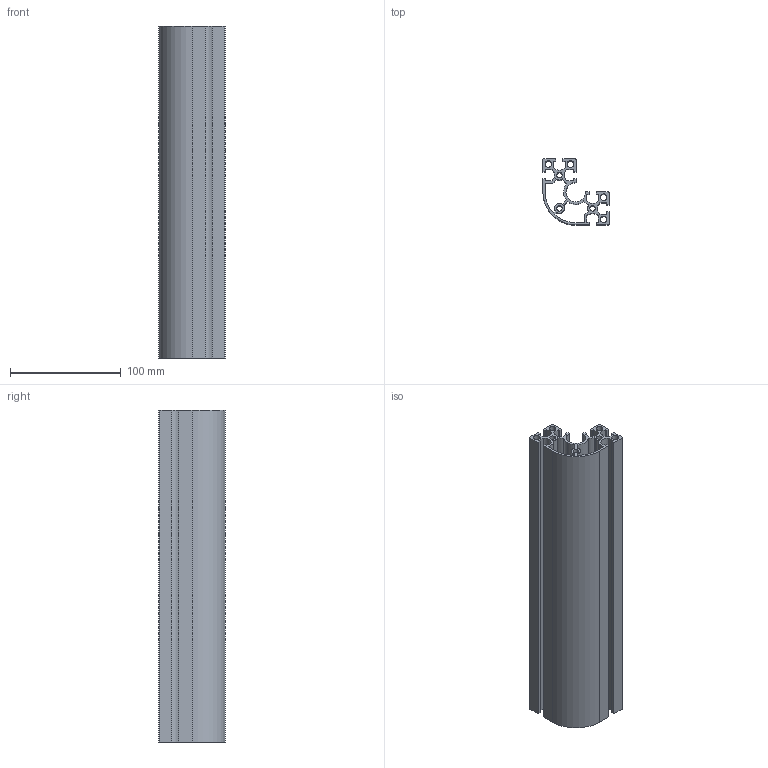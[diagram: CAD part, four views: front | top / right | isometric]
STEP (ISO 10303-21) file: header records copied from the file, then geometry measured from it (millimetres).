
FILE_DESCRIPTION (( 'STEP AP203' ), '1' );
FILE_NAME ('38-CG-6630R-6.STEP', '2015-07-07T03:49:20', ( '' ), ( '' ), 'SwSTEP 2.0', 'SolidWorks 2013', '' );
FILE_SCHEMA (( 'CONFIG_CONTROL_DESIGN' ));
Length unit declared in the file: millimetre
Products named in the file (1): 38-CG-6630R-6
Bounding box: 60 x 60 x 300 mm (x, y, z)
Volume: 245111.5 mm3; surface area: 213552.5 mm2
Topology: 1 solids, 1 shells, 103 faces, 303 edges, 202 vertices
Faces by surface type: plane 58, cylinder 45
Entity records: 3560 total; most frequent: CARTESIAN_POINT 609, ORIENTED_EDGE 606, DIRECTION 601, EDGE_CURVE 303, LINE 213, VECTOR 213, VERTEX_POINT 202, AXIS2_PLACEMENT_3D 194
